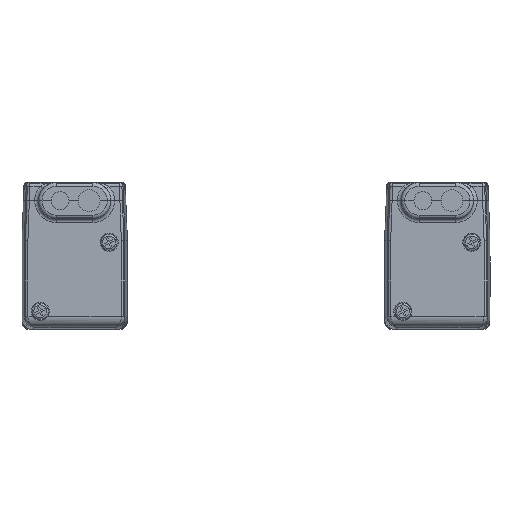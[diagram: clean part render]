
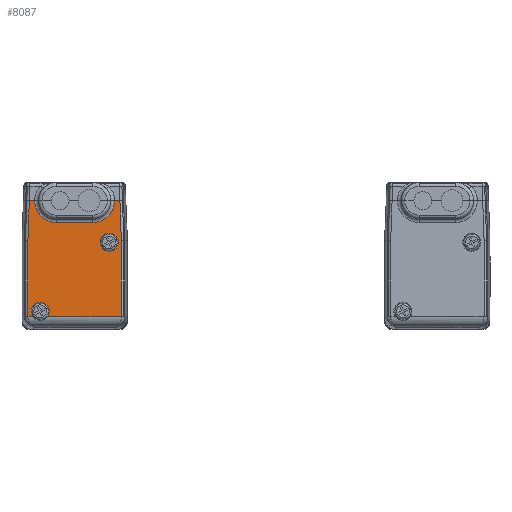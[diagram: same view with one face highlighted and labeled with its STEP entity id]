
A CAD part, left-side view. The second image highlights one B-rep face of the part: STEP entity #8087.
In plain terms, the highlighted planar face has unit normal (-1, 0, 0).
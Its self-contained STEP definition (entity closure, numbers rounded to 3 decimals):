
#8087=ADVANCED_FACE('',(#16746,#16747),#16748,.F.);
#16746=FACE_OUTER_BOUND('',#37715,.T.);
#16747=FACE_BOUND('',#37716,.T.);
#16748=PLANE('',#37717);
#37715=EDGE_LOOP('',(#63244,#63245,#63246,#63247,#63248,#63249,#63250,#63251,#63252,#63253,#63254,#63255,#63256,#63257,#63258,#63259));
#37716=EDGE_LOOP('',(#63260,#63261));
#37717=AXIS2_PLACEMENT_3D('',#63262,#63263,#63264);
#63244=ORIENTED_EDGE('',*,*,#78332,.F.);
#63245=ORIENTED_EDGE('',*,*,#78517,.F.);
#63246=ORIENTED_EDGE('',*,*,#76428,.T.);
#63247=ORIENTED_EDGE('',*,*,#77674,.T.);
#63248=ORIENTED_EDGE('',*,*,#76430,.T.);
#63249=ORIENTED_EDGE('',*,*,#78516,.F.);
#63250=ORIENTED_EDGE('',*,*,#76770,.F.);
#63251=ORIENTED_EDGE('',*,*,#78386,.F.);
#63252=ORIENTED_EDGE('',*,*,#80062,.F.);
#63253=ORIENTED_EDGE('',*,*,#71115,.F.);
#63254=ORIENTED_EDGE('',*,*,#76476,.F.);
#63255=ORIENTED_EDGE('',*,*,#75900,.F.);
#63256=ORIENTED_EDGE('',*,*,#72990,.F.);
#63257=ORIENTED_EDGE('',*,*,#75790,.F.);
#63258=ORIENTED_EDGE('',*,*,#76793,.F.);
#63259=ORIENTED_EDGE('',*,*,#73179,.F.);
#63260=ORIENTED_EDGE('',*,*,#75904,.T.);
#63261=ORIENTED_EDGE('',*,*,#80063,.T.);
#63262=CARTESIAN_POINT('',(79.096,1.451,567.497));
#63263=DIRECTION('',(1.0,0.,0.));
#63264=DIRECTION('',(0.,0.,1.0));
#71115=EDGE_CURVE('',#81781,#81783,#81784,.T.);
#72990=EDGE_CURVE('',#85078,#85071,#85080,.T.);
#73179=EDGE_CURVE('',#85402,#85404,#85405,.T.);
#75790=EDGE_CURVE('',#89546,#85078,#89549,.T.);
#75900=EDGE_CURVE('',#85071,#89718,#89719,.T.);
#75904=EDGE_CURVE('',#89725,#89722,#89726,.T.);
#76428=EDGE_CURVE('',#90498,#90495,#90499,.T.);
#76430=EDGE_CURVE('',#90502,#90500,#90503,.T.);
#76476=EDGE_CURVE('',#89718,#81781,#90568,.T.);
#76770=EDGE_CURVE('',#90976,#84610,#90978,.T.);
#76793=EDGE_CURVE('',#85404,#89546,#91007,.T.);
#77674=EDGE_CURVE('',#90495,#90502,#92232,.T.);
#78332=EDGE_CURVE('',#88604,#85402,#93097,.T.);
#78386=EDGE_CURVE('',#84824,#90976,#93166,.T.);
#78516=EDGE_CURVE('',#84610,#90500,#93335,.T.);
#78517=EDGE_CURVE('',#90498,#88604,#93336,.T.);
#80062=EDGE_CURVE('',#81783,#84824,#95212,.T.);
#80063=EDGE_CURVE('',#89722,#89725,#95213,.T.);
#81781=VERTEX_POINT('',#97179);
#81783=VERTEX_POINT('',#97181);
#81784=LINE('',#97182,#97183);
#84610=VERTEX_POINT('',#101466);
#84824=VERTEX_POINT('',#101808);
#85071=VERTEX_POINT('',#102204);
#85078=VERTEX_POINT('',#102211);
#85080=CIRCLE('',#102213,6.0);
#85402=VERTEX_POINT('',#102671);
#85404=VERTEX_POINT('',#102673);
#85405=LINE('',#102674,#102675);
#88604=VERTEX_POINT('',#107904);
#89546=VERTEX_POINT('',#109310);
#89549=LINE('',#109313,#109314);
#89718=VERTEX_POINT('',#109634);
#89719=LINE('',#109635,#109636);
#89722=VERTEX_POINT('',#109639);
#89725=VERTEX_POINT('',#109643);
#89726=CIRCLE('',#109644,2.5);
#90495=VERTEX_POINT('',#110883);
#90498=VERTEX_POINT('',#110887);
#90499=CIRCLE('',#110888,2.5);
#90500=VERTEX_POINT('',#110889);
#90502=VERTEX_POINT('',#110913);
#90503=CIRCLE('',#110914,2.5);
#90568=CIRCLE('',#111030,6.0);
#90976=VERTEX_POINT('',#111715);
#90978=ELLIPSE('',#111717,2.002,2.0);
#91007=LINE('',#111757,#111758);
#92232=CIRCLE('',#113711,2.5);
#93097=ELLIPSE('',#115049,2.002,2.0);
#93166=LINE('',#115153,#115154);
#93335=LINE('',#115415,#115416);
#93336=LINE('',#115417,#115418);
#95212=LINE('',#118959,#118960);
#95213=CIRCLE('',#118961,2.5);
#97179=CARTESIAN_POINT('',(79.096,-10.999,570.997));
#97181=CARTESIAN_POINT('',(79.096,-12.485,570.997));
#97182=CARTESIAN_POINT('',(79.096,0.726,570.997));
#97183=VECTOR('',#121463,1.0);
#101466=CARTESIAN_POINT('',(79.096,-12.869,539.061));
#101808=CARTESIAN_POINT('',(79.096,-12.87,559.972));
#102204=CARTESIAN_POINT('',(79.096,5.001,564.997));
#102211=CARTESIAN_POINT('',(79.096,11.001,570.997));
#102213=AXIS2_PLACEMENT_3D('',#124233,#124234,#124235);
#102671=CARTESIAN_POINT('',(79.096,12.871,539.129));
#102673=CARTESIAN_POINT('',(79.096,12.871,559.972));
#102674=CARTESIAN_POINT('',(79.096,12.871,563.749));
#102675=VECTOR('',#124502,1.0);
#107904=CARTESIAN_POINT('',(79.096,12.87,539.061));
#109310=CARTESIAN_POINT('',(79.096,12.486,570.997));
#109313=CARTESIAN_POINT('',(79.096,0.726,570.997));
#109314=VECTOR('',#128163,1.0);
#109634=CARTESIAN_POINT('',(79.096,-4.999,564.997));
#109635=CARTESIAN_POINT('',(79.096,0.726,564.997));
#109636=VECTOR('',#128313,1.0);
#109639=CARTESIAN_POINT('',(79.096,-6.999,559.501));
#109643=CARTESIAN_POINT('',(79.096,-11.999,559.501));
#109644=AXIS2_PLACEMENT_3D('',#128318,#128319,#128320);
#110883=CARTESIAN_POINT('',(79.096,12.001,540.501));
#110887=CARTESIAN_POINT('',(79.096,11.545,539.061));
#110888=AXIS2_PLACEMENT_3D('',#128993,#128994,#128995);
#110889=CARTESIAN_POINT('',(79.096,7.458,539.061));
#110913=CARTESIAN_POINT('',(79.096,7.001,540.501));
#110914=AXIS2_PLACEMENT_3D('',#128996,#128997,#128998);
#111030=AXIS2_PLACEMENT_3D('',#129045,#129046,#129047);
#111715=CARTESIAN_POINT('',(79.096,-12.87,539.129));
#111717=AXIS2_PLACEMENT_3D('',#129475,#129476,#129477);
#111757=CARTESIAN_POINT('',(79.096,12.548,569.227));
#111758=VECTOR('',#129507,1.0);
#113711=AXIS2_PLACEMENT_3D('',#130667,#130668,#130669);
#115049=AXIS2_PLACEMENT_3D('',#131478,#131479,#131480);
#115153=CARTESIAN_POINT('',(79.096,-12.87,563.749));
#115154=VECTOR('',#131537,1.0);
#115415=CARTESIAN_POINT('',(79.096,7.976,539.061));
#115416=VECTOR('',#131686,1.0);
#115417=CARTESIAN_POINT('',(79.096,7.976,539.061));
#115418=VECTOR('',#131687,1.0);
#118959=CARTESIAN_POINT('',(79.096,-12.545,569.277));
#118960=VECTOR('',#133430,1.0);
#118961=AXIS2_PLACEMENT_3D('',#133431,#133432,#133433);
#121463=DIRECTION('',(0.,-1.0,0.));
#124233=CARTESIAN_POINT('',(79.096,5.001,570.997));
#124234=DIRECTION('',(-1.0,0.,0.));
#124235=DIRECTION('',(0.,0.707,-0.707));
#124502=DIRECTION('',(0.,0.,1.0));
#128163=DIRECTION('',(0.,-1.0,0.));
#128313=DIRECTION('',(0.,-1.0,0.));
#128318=CARTESIAN_POINT('',(79.096,-9.499,559.501));
#128319=DIRECTION('',(1.0,0.,0.));
#128320=DIRECTION('',(0.,1.0,0.));
#128993=CARTESIAN_POINT('',(79.096,9.501,540.501));
#128994=DIRECTION('',(1.0,0.,0.));
#128995=DIRECTION('',(0.,1.0,0.));
#128996=CARTESIAN_POINT('',(79.096,9.501,540.501));
#128997=DIRECTION('',(1.0,0.,0.));
#128998=DIRECTION('',(0.,1.0,0.));
#129045=CARTESIAN_POINT('',(79.096,-4.999,570.997));
#129046=DIRECTION('',(-1.0,0.,0.));
#129047=DIRECTION('',(0.,-0.707,-0.707));
#129475=CARTESIAN_POINT('',(79.096,-10.869,539.131));
#129476=DIRECTION('',(1.0,0.,0.));
#129477=DIRECTION('',(0.,-0.707,-0.707));
#129507=DIRECTION('',(0.,-0.035,0.999));
#130667=CARTESIAN_POINT('',(79.096,9.501,540.501));
#130668=DIRECTION('',(1.0,0.,0.));
#130669=DIRECTION('',(0.,1.0,0.));
#131478=CARTESIAN_POINT('',(79.096,10.87,539.131));
#131479=DIRECTION('',(1.0,0.,0.));
#131480=DIRECTION('',(0.,0.707,-0.707));
#131537=DIRECTION('',(0.,0.,-1.0));
#131686=DIRECTION('',(0.,1.0,0.));
#131687=DIRECTION('',(0.,1.0,0.));
#133430=DIRECTION('',(0.,-0.035,-0.999));
#133431=CARTESIAN_POINT('',(79.096,-9.499,559.501));
#133432=DIRECTION('',(1.0,0.,0.));
#133433=DIRECTION('',(0.,1.0,0.));
